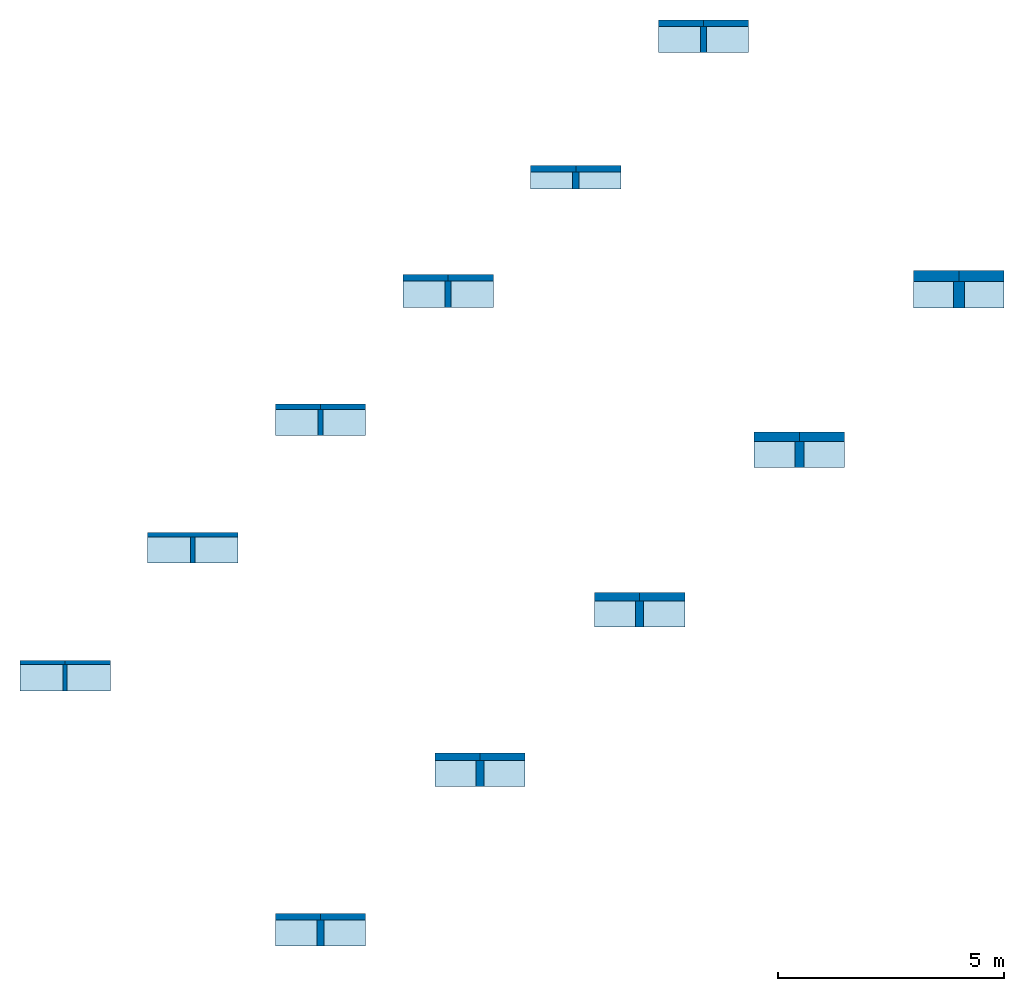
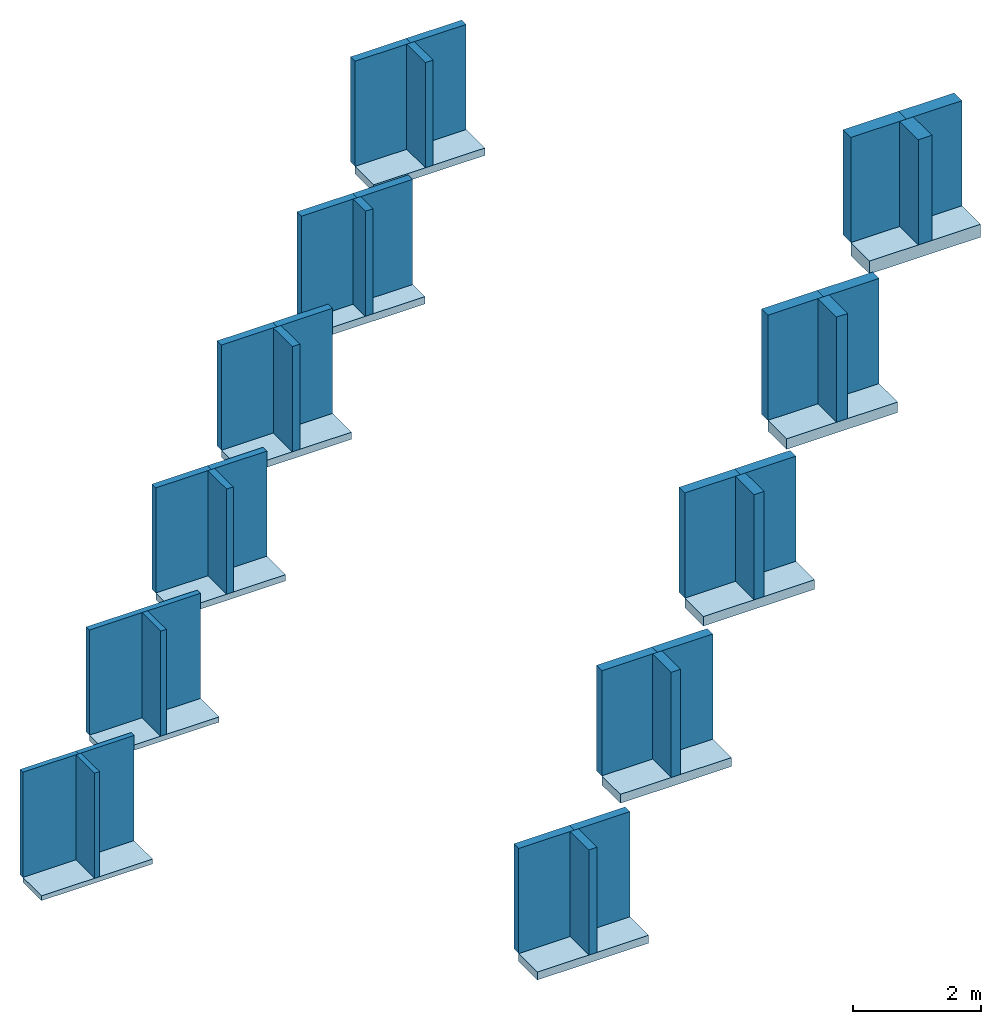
# One storey: 32 walls, 11 slabs.
"""IFC2X3 building model written with IfcOpenShell, lengths in millimetres."""

import ifcopenshell
import ifcopenshell.guid

model = None  # the IFC model being written
_history = None  # IfcOwnerHistory: only IFC2X3 demands one
_inside = {}  # id of a spatial element -> (the spatial element, [elements in it])
_under = {}  # id of a project, library or spatial element -> (it, [spatial elements below it])
_declared = {}  # id of a project -> (the project, [libraries it declares])
_typed = {}  # id of a type object -> (the type object, [elements of that type])
_made_of = {}  # id of a material, layer set ... -> (it, [elements and type objects made of it])


def new_model(schema):
    """Start an empty IFC model of exactly this schema.

    Asked for "IFC4X3", IfcOpenShell would pick the latest addendum, in which some entities
    have other attributes; the version numbers below select the first issue.
    IFC2X3 requires an IfcOwnerHistory on every rooted entity: one is made here for all.
    """
    global model, _history
    if schema == "IFC4X3":
        model = ifcopenshell.file(schema_version=(4, 3, 0, 0))
    else:
        model = ifcopenshell.file(schema=schema)
    _inside.clear()
    _under.clear()
    _declared.clear()
    _typed.clear()
    _made_of.clear()
    _history = None
    if model.schema == "IFC2X3":
        org = make("IfcOrganization", Name="unknown")
        user = make(
            "IfcPersonAndOrganization",
            ThePerson=make("IfcPerson", FamilyName="unknown"),
            TheOrganization=org,
        )
        app = make(
            "IfcApplication",
            ApplicationDeveloper=org,
            Version="unknown",
            ApplicationFullName="unknown",
            ApplicationIdentifier="unknown",
        )
        _history = make(
            "IfcOwnerHistory",
            OwningUser=user,
            OwningApplication=app,
            ChangeAction="ADDED",
            CreationDate=0,
        )
    return model


def make(cls, **values):
    """One entity of the class cls with the attributes given. An attribute that is None is left unset."""
    return model.create_entity(
        cls, **{name: value for name, value in values.items() if value is not None}
    )


def entity(cls, *values):
    """Any entity or typed value of the class cls, its attributes in the order of the schema. None: left unset."""
    e = model.create_entity(cls)
    for i, value in enumerate(values):
        if value is not None:
            e[i] = value
    return e


def rooted(cls, **values):
    """An entity with a GlobalId (a new one), such as an element, a storey or a relation."""
    return make(cls, GlobalId=ifcopenshell.guid.new(), OwnerHistory=_history, **values)


def si_unit(unit_type, name, prefix=None):
    """IfcSIUnit, for example si_unit("LENGTHUNIT", "METRE", prefix="MILLI")."""
    return make("IfcSIUnit", UnitType=unit_type, Prefix=prefix, Name=name)


def converted_unit(unit_type, name, factor, base, dimensions=None, offset=None):
    """IfcConversionBasedUnit, such as the inch: factor (a typed value) times the base unit."""
    return make(
        "IfcConversionBasedUnit"
        if offset is None
        else "IfcConversionBasedUnitWithOffset",
        ConversionOffset=offset,
        Dimensions=None
        if dimensions is None
        else entity("IfcDimensionalExponents", *dimensions),
        UnitType=unit_type,
        Name=name,
        ConversionFactor=make(
            "IfcMeasureWithUnit", ValueComponent=factor, UnitComponent=base
        ),
    )


def derived_unit(unit_type, elements):
    """IfcDerivedUnit: a product of units, each with its exponent."""
    return make(
        "IfcDerivedUnit",
        Elements=[
            make("IfcDerivedUnitElement", Unit=unit, Exponent=power)
            for unit, power in elements
        ],
        UnitType=unit_type,
    )


def assignment(units):
    """IfcUnitAssignment: the units of a project."""
    return None if units is None else make("IfcUnitAssignment", Units=units)


def point(xyz):
    """IfcCartesianPoint."""
    return None if xyz is None else make("IfcCartesianPoint", Coordinates=xyz)


def direction(xyz):
    """IfcDirection."""
    return None if xyz is None else make("IfcDirection", DirectionRatios=xyz)


def frame(location, z_axis=None, x_axis=None):
    """IfcAxis2Placement3D, a coordinate frame: its origin and axes. An axis left out is left unset."""
    return make(
        "IfcAxis2Placement3D",
        Location=point(location),
        Axis=direction(z_axis),
        RefDirection=direction(x_axis),
    )


def frame_2d(location, x_axis=None):
    """IfcAxis2Placement2D, a coordinate frame in the plane: its origin and x axis."""
    return make(
        "IfcAxis2Placement2D", Location=point(location), RefDirection=direction(x_axis)
    )


def origin():
    """The frame at (0, 0, 0) with its axes left unset."""
    return frame((0.0, 0.0, 0.0))


def origin_2d_with_axis():
    """The frame at (0, 0) in the plane with the x axis (1, 0) written out."""
    return frame_2d((0.0, 0.0), x_axis=(1.0, 0.0))


def place(relative_to, where):
    """IfcLocalPlacement: puts the frame where relative to a parent placement (None: the world)."""
    return make(
        "IfcLocalPlacement", PlacementRelTo=relative_to, RelativePlacement=where
    )


def context(
    kind, dimensions, precision=None, world=None, true_north=None, identifier=None
):
    """IfcGeometricRepresentationContext, for example the 3D "Model" context."""
    return make(
        "IfcGeometricRepresentationContext",
        ContextIdentifier=identifier,
        ContextType=kind,
        CoordinateSpaceDimension=dimensions,
        Precision=precision,
        WorldCoordinateSystem=world,
        TrueNorth=true_north,
    )


def subcontext(parent, identifier, kind, view, scale=None):
    """IfcGeometricRepresentationSubContext, for example "Body" below "Model"."""
    return make(
        "IfcGeometricRepresentationSubContext",
        ContextIdentifier=identifier,
        ContextType=kind,
        ParentContext=parent,
        TargetScale=scale,
        TargetView=view,
    )


def project(units=None, contexts=None):
    """IfcProject with its units and contexts."""
    return rooted(
        "IfcProject",
        Name="project",
        RepresentationContexts=contexts,
        UnitsInContext=assignment(units),
    )


def spatial(cls, under=None, at=None, **own):
    """A site, building, storey or space (cls), placed at a placement, below another one or the project."""
    s = rooted(cls, ObjectPlacement=at, **own)
    if under is not None:
        _under.setdefault(under.id(), (under, []))[1].append(s)
    return s


def profile(cls, at=None, kind="AREA", **sizes):
    """A parametric profile (cls). Its sizes go by their IFC names, for example OverallWidth=200.0."""
    return make(cls, ProfileType=kind, Position=at, **sizes)


def rectangle(**sizes):
    """IfcRectangleProfileDef."""
    return profile("IfcRectangleProfileDef", **sizes)


def extrude(swept, where, along, depth):
    """IfcExtrudedAreaSolid: the profile swept, set in the frame where, extruded along a direction by depth."""
    return make(
        "IfcExtrudedAreaSolid",
        SweptArea=swept,
        Position=where,
        ExtrudedDirection=direction(along),
        Depth=depth,
    )


def shape(context_of_items, identifier, shape_type, items):
    """IfcShapeRepresentation: the items that make up one representation, for example the "Body"."""
    return make(
        "IfcShapeRepresentation",
        ContextOfItems=context_of_items,
        RepresentationIdentifier=identifier,
        RepresentationType=shape_type,
        Items=items,
    )


def material(Name=None, Category=None):
    """IfcMaterial."""
    return make("IfcMaterial", Name=Name, Category=Category)


def layer(
    of_material, thickness, ventilated=None, Name=None, Category=None, Priority=None
):
    """IfcMaterialLayer: one layer of a wall or slab, of a material (None: an air gap)."""
    return make(
        "IfcMaterialLayer",
        Material=of_material,
        LayerThickness=thickness,
        IsVentilated=ventilated,
        Name=Name,
        Category=Category,
        Priority=Priority,
    )


def layer_set(layers, Name=None):
    """IfcMaterialLayerSet."""
    return make("IfcMaterialLayerSet", MaterialLayers=layers, LayerSetName=Name)


def layer_usage(for_layer_set, set_direction, sense, offset, extent=None):
    """IfcMaterialLayerSetUsage: how a layer set lies in its element."""
    return make(
        "IfcMaterialLayerSetUsage",
        ForLayerSet=for_layer_set,
        LayerSetDirection=set_direction,
        DirectionSense=sense,
        OffsetFromReferenceLine=offset,
        ReferenceExtent=extent,
    )


def made_of(thing, what):
    """Note that an element or type object is made of a material, layer set ...; save() writes the relation."""
    if what is not None:
        _made_of.setdefault(what.id(), (what, []))[1].append(thing)
    return thing


def type_object(cls, material=None, **own):
    """A type object (cls), such as IfcWallType, which elements share."""
    return made_of(rooted(cls, **own), material)


def element(
    cls,
    number,
    at=None,
    inside=None,
    cuts=None,
    type_object=None,
    material=None,
    context=None,
    identifier="Body",
    shape_type=None,
    held_by="IfcProductDefinitionShape",
    body=None,
    shapes=None,
    **own,
):
    """One element of the class cls, such as IfcWall. Its Tag is "e" and its number.

    at: its placement. inside: the storey or other place that contains it. cuts: it is an
    opening in that element (IfcRelVoidsElement). A single representation is given by context,
    identifier, shape_type and body (its items); several are given by shapes. held_by: the class
    of the entity that holds the representations. save() writes the other relations.
    """
    e = rooted(cls, Tag="e%d" % number, ObjectPlacement=at, **own)
    if body is not None:
        shapes = [shape(context, identifier, shape_type, body)]
    if shapes is not None:
        e.Representation = make(held_by, Representations=shapes)
    if inside is not None:
        _inside.setdefault(inside.id(), (inside, []))[1].append(e)
    if cuts is not None:
        rooted(
            "IfcRelVoidsElement", RelatingBuildingElement=cuts, RelatedOpeningElement=e
        )
    if type_object is not None:
        _typed.setdefault(type_object.id(), (type_object, []))[1].append(e)
    return made_of(e, material)


def aggregate(whole, parts):
    """IfcRelAggregates: a whole, such as a stair, and the parts it consists of."""
    return rooted("IfcRelAggregates", RelatingObject=whole, RelatedObjects=parts)


def save(model, path):
    """Write the relations noted so far, then the file.

    IfcRelAggregates (storeys below a building ...), IfcRelContainedInSpatialStructure (elements
    in a storey), IfcRelDefinesByType, IfcRelAssociatesMaterial and IfcRelDeclares: one each for
    every whole, place, type object, material and project.
    """
    for whole, parts in _under.values():
        aggregate(whole, parts)
    for where, things in _inside.values():
        rooted(
            "IfcRelContainedInSpatialStructure",
            RelatedElements=things,
            RelatingStructure=where,
        )
    for kind, things in _typed.values():
        rooted("IfcRelDefinesByType", RelatedObjects=things, RelatingType=kind)
    for what, things in _made_of.values():
        rooted("IfcRelAssociatesMaterial", RelatedObjects=things, RelatingMaterial=what)
    for by, libraries in _declared.values():
        rooted("IfcRelDeclares", RelatingContext=by, RelatedDefinitions=libraries)
    model.write(path)


model = new_model("IFC2X3")

# Units and contexts
model_context = context("Model", 3, precision=0.01, world=origin(), true_north=direction((6.12303176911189e-17, 1.0)))
context_of_model = context(None, 3, precision=0.01, world=origin(), true_north=direction((6.12303176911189e-17, 1.0)))
body_context = subcontext(model_context, "Body", "Model", "MODEL_VIEW")
ifc_project = project(units=[si_unit("LENGTHUNIT", "METRE", prefix="MILLI"), si_unit("AREAUNIT", "SQUARE_METRE"), si_unit("VOLUMEUNIT", "CUBIC_METRE"), converted_unit("PLANEANGLEUNIT", "DEGREE", entity("IfcRatioMeasure", 0.0174532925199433), si_unit("PLANEANGLEUNIT", "RADIAN"), dimensions=[0, 0, 0, 0, 0, 0, 0]), si_unit("MASSUNIT", "GRAM", prefix="KILO"), derived_unit("MASSDENSITYUNIT", [(si_unit("MASSUNIT", "GRAM", prefix="KILO"), 1), (si_unit("LENGTHUNIT", "METRE"), -3)]), si_unit("TIMEUNIT", "SECOND"), si_unit("FREQUENCYUNIT", "HERTZ"), si_unit("THERMODYNAMICTEMPERATUREUNIT", "DEGREE_CELSIUS"), derived_unit("THERMALTRANSMITTANCEUNIT", [(si_unit("MASSUNIT", "GRAM", prefix="KILO"), 1), (si_unit("THERMODYNAMICTEMPERATUREUNIT", "KELVIN"), -1), (si_unit("TIMEUNIT", "SECOND"), -3)]), derived_unit("VOLUMETRICFLOWRATEUNIT", [(si_unit("LENGTHUNIT", "METRE"), 3), (si_unit("TIMEUNIT", "SECOND"), -1)]), si_unit("ELECTRICCURRENTUNIT", "AMPERE"), si_unit("ELECTRICVOLTAGEUNIT", "VOLT"), si_unit("POWERUNIT", "WATT"), si_unit("FORCEUNIT", "NEWTON", prefix="KILO"), si_unit("ILLUMINANCEUNIT", "LUX"), si_unit("LUMINOUSFLUXUNIT", "LUMEN"), si_unit("LUMINOUSINTENSITYUNIT", "CANDELA"), derived_unit("USERDEFINED", [(si_unit("MASSUNIT", "GRAM", prefix="KILO"), -1), (si_unit("LENGTHUNIT", "METRE"), -2), (si_unit("TIMEUNIT", "SECOND"), 3), (si_unit("LUMINOUSFLUXUNIT", "LUMEN"), 1)]), derived_unit("LINEARVELOCITYUNIT", [(si_unit("LENGTHUNIT", "METRE"), 1), (si_unit("TIMEUNIT", "SECOND"), -1)]), si_unit("PRESSUREUNIT", "PASCAL"), derived_unit("USERDEFINED", [(si_unit("LENGTHUNIT", "METRE"), -2), (si_unit("MASSUNIT", "GRAM", prefix="KILO"), 1), (si_unit("TIMEUNIT", "SECOND"), -2)])], contexts=[model_context, context_of_model])

# Site, building, storey
site_placement = place(None, origin())
site = spatial("IfcSite", under=ifc_project, at=site_placement, Name="Default", CompositionType="ELEMENT")
building_placement = place(site_placement, origin())
building = spatial("IfcBuilding", under=site, at=building_placement, CompositionType="ELEMENT")
storey_placement = place(building_placement, origin())
storey = spatial("IfcBuildingStorey", under=building, at=storey_placement, Name="Begane grond", CompositionType="ELEMENT", Elevation=0.0)

# Slabs
ifc_material = material(Name="Knauf Insulation_Ecose® glaswol_naturoll 032")
ifc_layer_1 = layer(ifc_material, 90.0)
ifc_layer_set_1 = layer_set([ifc_layer_1], Name="Floor:NLRS_23_FL_Naturoll 032_90x580x3500mm")
ifc_layer_usage_1 = layer_usage(ifc_layer_set_1, "AXIS3", "POSITIVE", 0.0)
slab_type_1 = type_object("IfcSlabType", Name="Floor:NLRS_23_FL_Naturoll 032_90x580x3500mm", PredefinedType="FLOOR", material=ifc_layer_set_1)
slab_1_placement = place(storey_placement, origin())
element("IfcSlab", 1, at=slab_1_placement, inside=storey, type_object=slab_type_1, material=ifc_layer_usage_1, Name="Floor:NLRS_23_FL_Naturoll 032_90x580x3500mm", ObjectType="Floor:NLRS_23_FL_Naturoll 032_90x580x3500mm", PredefinedType="FLOOR", context=body_context, shape_type="SweptSolid", body=[
    extrude(rectangle(XDim=580.0, YDim=2000.0, at=origin_2d_with_axis()), frame((-2086.12151122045, -4834.3198354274, 0.0), z_axis=(0.0, 0.0, -1.0), x_axis=(0.0, 1.0, 0.0)), (0.0, 0.0, 1.0), 90.0),
])
ifc_layer_2 = layer(ifc_material, 100.0)
ifc_layer_set_2 = layer_set([ifc_layer_2], Name="Floor:NLRS_23_FL_Naturoll 032_100x580x2700mm")
ifc_layer_usage_2 = layer_usage(ifc_layer_set_2, "AXIS3", "POSITIVE", 0.0)
slab_type_2 = type_object("IfcSlabType", Name="Floor:NLRS_23_FL_Naturoll 032_100x580x2700mm", PredefinedType="FLOOR", material=ifc_layer_set_2)
slab_2_placement = place(storey_placement, origin())
element("IfcSlab", 2, at=slab_2_placement, inside=storey, type_object=slab_type_2, material=ifc_layer_usage_2, Name="Floor:NLRS_23_FL_Naturoll 032_100x580x2700mm", ObjectType="Floor:NLRS_23_FL_Naturoll 032_100x580x2700mm", PredefinedType="FLOOR", context=body_context, shape_type="SweptSolid", body=[
    extrude(rectangle(XDim=580.0, YDim=2000.0, at=frame_2d((0.0, -1.13686837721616e-13), x_axis=(1.0, 0.0))), frame((742.305613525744, -2005.89271068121, 0.0), z_axis=(0.0, 0.0, -1.0), x_axis=(0.0, 1.0, 0.0)), (0.0, 0.0, 1.0), 100.0),
])
ifc_layer_3 = layer(ifc_material, 120.0)
ifc_layer_set_3 = layer_set([ifc_layer_3], Name="Floor:NLRS_23_FL_Naturoll 032_120x580x2700mm")
ifc_layer_usage_3 = layer_usage(ifc_layer_set_3, "AXIS3", "POSITIVE", 0.0)
slab_type_3 = type_object("IfcSlabType", Name="Floor:NLRS_23_FL_Naturoll 032_120x580x2700mm", PredefinedType="FLOOR", material=ifc_layer_set_3)
slab_3_placement = place(storey_placement, origin())
element("IfcSlab", 3, at=slab_3_placement, inside=storey, type_object=slab_type_3, material=ifc_layer_usage_3, Name="Floor:NLRS_23_FL_Naturoll 032_120x580x2700mm", ObjectType="Floor:NLRS_23_FL_Naturoll 032_120x580x2700mm", PredefinedType="FLOOR", context=body_context, shape_type="SweptSolid", body=[
    extrude(rectangle(XDim=580.0, YDim=2000.0, at=origin_2d_with_axis()), frame((3570.73273827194, 822.534414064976, 0.0), z_axis=(0.0, 0.0, -1.0), x_axis=(0.0, 1.0, 0.0)), (0.0, 0.0, 1.0), 120.0),
])
ifc_layer_4 = layer(ifc_material, 135.0)
ifc_layer_set_4 = layer_set([ifc_layer_4], Name="Floor:NLRS_23_FL_Naturoll 032_135x590x2700mm")
ifc_layer_usage_4 = layer_usage(ifc_layer_set_4, "AXIS3", "POSITIVE", 0.0)
slab_type_4 = type_object("IfcSlabType", Name="Floor:NLRS_23_FL_Naturoll 032_135x590x2700mm", PredefinedType="FLOOR", material=ifc_layer_set_4)
slab_4_placement = place(storey_placement, origin())
element("IfcSlab", 4, at=slab_4_placement, inside=storey, type_object=slab_type_4, material=ifc_layer_usage_4, Name="Floor:NLRS_23_FL_Naturoll 032_135x590x2700mm", ObjectType="Floor:NLRS_23_FL_Naturoll 032_135x590x2700mm", PredefinedType="FLOOR", context=body_context, shape_type="SweptSolid", body=[
    extrude(rectangle(XDim=590.0, YDim=2000.0, at=origin_2d_with_axis()), frame((6399.15986301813, 3665.96153881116, 0.0), z_axis=(0.0, 0.0, -1.0), x_axis=(0.0, 1.0, 0.0)), (0.0, 0.0, 1.0), 135.0),
])
ifc_layer_5 = layer(ifc_material, 140.0)
ifc_layer_set_5 = layer_set([ifc_layer_5], Name="Floor:NLRS_23_FL_Naturoll 032_140x380x2700mm")
ifc_layer_usage_5 = layer_usage(ifc_layer_set_5, "AXIS3", "POSITIVE", 0.0)
slab_type_5 = type_object("IfcSlabType", Name="Floor:NLRS_23_FL_Naturoll 032_140x380x2700mm", PredefinedType="FLOOR", material=ifc_layer_set_5)
slab_5_placement = place(storey_placement, origin())
element("IfcSlab", 5, at=slab_5_placement, inside=storey, type_object=slab_type_5, material=ifc_layer_usage_5, Name="Floor:NLRS_23_FL_Naturoll 032_140x380x2700mm", ObjectType="Floor:NLRS_23_FL_Naturoll 032_140x380x2700mm", PredefinedType="FLOOR", context=body_context, shape_type="SweptSolid", body=[
    extrude(rectangle(XDim=380.0, YDim=2000.0, at=origin_2d_with_axis()), frame((9227.58698776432, 6179.38866355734, 0.0), z_axis=(0.0, 0.0, -1.0), x_axis=(0.0, 1.0, 0.0)), (0.0, 0.0, 1.0), 140.0),
])
ifc_layer_6 = layer(ifc_material, 140.0)
ifc_layer_set_6 = layer_set([ifc_layer_6], Name="Floor:NLRS_23_FL_Naturoll 032_140x580x2700mm")
ifc_layer_usage_6 = layer_usage(ifc_layer_set_6, "AXIS3", "POSITIVE", 0.0)
slab_type_6 = type_object("IfcSlabType", Name="Floor:NLRS_23_FL_Naturoll 032_140x580x2700mm", PredefinedType="FLOOR", material=ifc_layer_set_6)
slab_6_placement = place(storey_placement, origin())
element("IfcSlab", 6, at=slab_6_placement, inside=storey, type_object=slab_type_6, material=ifc_layer_usage_6, Name="Floor:NLRS_23_FL_Naturoll 032_140x580x2700mm", ObjectType="Floor:NLRS_23_FL_Naturoll 032_140x580x2700mm", PredefinedType="FLOOR", context=body_context, shape_type="SweptSolid", body=[
    extrude(rectangle(XDim=580.0, YDim=2000.0, at=frame_2d((0.0, -2.1600499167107e-12), x_axis=(1.0, 0.0))), frame((12056.0141125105, 9307.81578830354, 0.0), z_axis=(0.0, 0.0, -1.0), x_axis=(0.0, 1.0, 0.0)), (0.0, 0.0, 1.0), 140.0),
])
ifc_layer_7 = layer(ifc_material, 150.0)
ifc_layer_set_7 = layer_set([ifc_layer_7], Name="Floor:NLRS_23_FL_Naturoll 032_150x580x2700mm")
ifc_layer_usage_7 = layer_usage(ifc_layer_set_7, "AXIS3", "POSITIVE", 0.0)
slab_type_7 = type_object("IfcSlabType", Name="Floor:NLRS_23_FL_Naturoll 032_150x580x2700mm", PredefinedType="FLOOR", material=ifc_layer_set_7)
slab_7_placement = place(storey_placement, origin())
element("IfcSlab", 7, at=slab_7_placement, inside=storey, type_object=slab_type_7, material=ifc_layer_usage_7, Name="Floor:NLRS_23_FL_Naturoll 032_150x580x2700mm", ObjectType="Floor:NLRS_23_FL_Naturoll 032_150x580x2700mm", PredefinedType="FLOOR", context=body_context, shape_type="SweptSolid", body=[
    extrude(rectangle(XDim=580.0, YDim=2000.0, at=frame_2d((1.08002495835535e-12, 0.0), x_axis=(1.0, 0.0))), frame((3570.73273827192, -10491.1740849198, 0.0), z_axis=(0.0, 0.0, -1.0), x_axis=(0.0, 1.0, 0.0)), (0.0, 0.0, 1.0), 150.0),
])
ifc_layer_8 = layer(ifc_material, 170.0)
ifc_layer_set_8 = layer_set([ifc_layer_8], Name="Floor:NLRS_23_FL_Naturoll 032_170x580x2350mm")
ifc_layer_usage_8 = layer_usage(ifc_layer_set_8, "AXIS3", "POSITIVE", 0.0)
slab_type_8 = type_object("IfcSlabType", Name="Floor:NLRS_23_FL_Naturoll 032_170x580x2350mm", PredefinedType="FLOOR", material=ifc_layer_set_8)
slab_8_placement = place(storey_placement, origin())
element("IfcSlab", 8, at=slab_8_placement, inside=storey, type_object=slab_type_8, material=ifc_layer_usage_8, Name="Floor:NLRS_23_FL_Naturoll 032_170x580x2350mm", ObjectType="Floor:NLRS_23_FL_Naturoll 032_170x580x2350mm", PredefinedType="FLOOR", context=body_context, shape_type="SweptSolid", body=[
    extrude(rectangle(XDim=580.0, YDim=2000.0, at=origin_2d_with_axis()), frame((7106.26664420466, -6955.64017898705, 0.0), z_axis=(0.0, 0.0, -1.0), x_axis=(0.0, 1.0, 0.0)), (0.0, 0.0, 1.0), 170.0),
])
ifc_layer_9 = layer(ifc_material, 180.0)
ifc_layer_set_9 = layer_set([ifc_layer_9], Name="Floor:NLRS_23_FL_Naturoll 032_180x580x2200mm")
ifc_layer_usage_9 = layer_usage(ifc_layer_set_9, "AXIS3", "POSITIVE", 0.0)
slab_type_9 = type_object("IfcSlabType", Name="Floor:NLRS_23_FL_Naturoll 032_180x580x2200mm", PredefinedType="FLOOR", material=ifc_layer_set_9)
slab_9_placement = place(storey_placement, origin())
element("IfcSlab", 9, at=slab_9_placement, inside=storey, type_object=slab_type_9, material=ifc_layer_usage_9, Name="Floor:NLRS_23_FL_Naturoll 032_180x580x2200mm", ObjectType="Floor:NLRS_23_FL_Naturoll 032_180x580x2200mm", PredefinedType="FLOOR", context=body_context, shape_type="SweptSolid", body=[
    extrude(rectangle(XDim=580.0, YDim=2000.0, at=frame_2d((0.0, 1.64845914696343e-12), x_axis=(1.0, 0.0))), frame((10641.8005501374, -3420.10627305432, 0.0), z_axis=(0.0, 0.0, -1.0), x_axis=(0.0, 1.0, 0.0)), (0.0, 0.0, 1.0), 180.0),
])
ifc_layer_10 = layer(ifc_material, 200.0)
ifc_layer_set_10 = layer_set([ifc_layer_10], Name="Floor:NLRS_23_FL_Naturoll 032_200x580x2000mm")
ifc_layer_usage_10 = layer_usage(ifc_layer_set_10, "AXIS3", "POSITIVE", 0.0)
slab_type_10 = type_object("IfcSlabType", Name="Floor:NLRS_23_FL_Naturoll 032_200x580x2000mm", PredefinedType="FLOOR", material=ifc_layer_set_10)
slab_10_placement = place(storey_placement, origin())
element("IfcSlab", 10, at=slab_10_placement, inside=storey, type_object=slab_type_10, material=ifc_layer_usage_10, Name="Floor:NLRS_23_FL_Naturoll 032_200x580x2000mm", ObjectType="Floor:NLRS_23_FL_Naturoll 032_200x580x2000mm", PredefinedType="FLOOR", context=body_context, shape_type="SweptSolid", body=[
    extrude(rectangle(XDim=580.0, YDim=2000.0, at=origin_2d_with_axis()), frame((14177.3344560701, 115.427632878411, 0.0), z_axis=(0.0, 0.0, -1.0), x_axis=(0.0, 1.0, 0.0)), (0.0, 0.0, 1.0), 200.0),
])
ifc_layer_11 = layer(ifc_material, 245.0)
ifc_layer_set_11 = layer_set([ifc_layer_11], Name="Floor:NLRS_23_FL_Naturoll 032_245x580x2000mm")
ifc_layer_usage_11 = layer_usage(ifc_layer_set_11, "AXIS3", "POSITIVE", 0.0)
slab_type_11 = type_object("IfcSlabType", Name="Floor:NLRS_23_FL_Naturoll 032_245x580x2000mm", PredefinedType="FLOOR", material=ifc_layer_set_11)
slab_11_placement = place(storey_placement, origin())
element("IfcSlab", 11, at=slab_11_placement, inside=storey, type_object=slab_type_11, material=ifc_layer_usage_11, Name="Floor:NLRS_23_FL_Naturoll 032_245x580x2000mm", ObjectType="Floor:NLRS_23_FL_Naturoll 032_245x580x2000mm", PredefinedType="FLOOR", context=body_context, shape_type="SweptSolid", body=[
    extrude(rectangle(XDim=580.0, YDim=2000.0, at=frame_2d((0.0, -2.1600499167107e-12), x_axis=(1.0, 0.0))), frame((17712.8683620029, 3650.96153881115, 0.0), z_axis=(0.0, 0.0, -1.0), x_axis=(0.0, 1.0, 0.0)), (0.0, 0.0, 1.0), 245.0),
])

# Walls
ifc_layer_12 = layer(ifc_material, 90.0)
ifc_layer_set_12 = layer_set([ifc_layer_12], Name="Basic Wall:NLRS_21_WA_Naturoll 032_90x580x3500mm")
ifc_layer_usage_12 = layer_usage(ifc_layer_set_12, "AXIS2", "NEGATIVE", 45.0)
wall_type_1 = type_object("IfcWallType", Name="Basic Wall:NLRS_21_WA_Naturoll 032_90x580x3500mm", PredefinedType="STANDARD", material=ifc_layer_set_12)
wall_1_placement = place(storey_placement, frame((-3086.12151122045, -4499.3198354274, 0.0)))
element("IfcWallStandardCase", 12, at=wall_1_placement, inside=storey, type_object=wall_type_1, material=ifc_layer_usage_12, Name="Basic Wall:NLRS_21_WA_Naturoll 032_90x580x3500mm", ObjectType="Basic Wall:NLRS_21_WA_Naturoll 032_90x580x3500mm", context=body_context, shape_type="SweptSolid", body=[
    extrude(rectangle(XDim=1000.0, YDim=90.0000000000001, at=frame_2d((500.0, 0.0), x_axis=(-1.0, 0.0))), origin(), (0.0, 0.0, 1.0), 2000.0),
])
ifc_layer_usage_13 = layer_usage(ifc_layer_set_12, "AXIS2", "NEGATIVE", 45.0)
wall_2_placement = place(storey_placement, frame((-2086.12151122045, -4499.3198354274, 0.0)))
element("IfcWallStandardCase", 13, at=wall_2_placement, inside=storey, type_object=wall_type_1, material=ifc_layer_usage_13, Name="Basic Wall:NLRS_21_WA_Naturoll 032_90x580x3500mm", ObjectType="Basic Wall:NLRS_21_WA_Naturoll 032_90x580x3500mm", context=body_context, shape_type="SweptSolid", body=[
    extrude(rectangle(XDim=1000.0, YDim=90.0000000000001, at=frame_2d((500.0, 0.0), x_axis=(-1.0, 0.0))), origin(), (0.0, 0.0, 1.0), 2000.0),
])
ifc_layer_usage_14 = layer_usage(ifc_layer_set_12, "AXIS2", "NEGATIVE", 45.0)
wall_3_placement = place(storey_placement, frame((-2086.12151122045, -4544.3198354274, 0.0), z_axis=(0.0, 0.0, 1.0), x_axis=(0.0, -1.0, 0.0)))
element("IfcWallStandardCase", 14, at=wall_3_placement, inside=storey, type_object=wall_type_1, material=ifc_layer_usage_14, Name="Basic Wall:NLRS_21_WA_Naturoll 032_90x580x3500mm", ObjectType="Basic Wall:NLRS_21_WA_Naturoll 032_90x580x3500mm", context=body_context, shape_type="SweptSolid", body=[
    extrude(rectangle(XDim=580.0, YDim=90.0000000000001, at=frame_2d((290.0, 0.0), x_axis=(-1.0, 0.0))), origin(), (0.0, 0.0, 1.0), 2000.0),
])
ifc_layer_13 = layer(ifc_material, 100.0)
ifc_layer_set_13 = layer_set([ifc_layer_13], Name="Basic Wall:NLRS_21_WA_Naturoll 032_100x580x2700mm")
ifc_layer_usage_15 = layer_usage(ifc_layer_set_13, "AXIS2", "NEGATIVE", 50.0)
wall_type_2 = type_object("IfcWallType", Name="Basic Wall:NLRS_21_WA_Naturoll 032_100x580x2700mm", PredefinedType="STANDARD", material=ifc_layer_set_13)
wall_4_placement = place(storey_placement, frame((-257.694386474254, -1665.89271068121, 0.0)))
element("IfcWallStandardCase", 15, at=wall_4_placement, inside=storey, type_object=wall_type_2, material=ifc_layer_usage_15, Name="Basic Wall:NLRS_21_WA_Naturoll 032_100x580x2700mm", ObjectType="Basic Wall:NLRS_21_WA_Naturoll 032_100x580x2700mm", context=body_context, shape_type="SweptSolid", body=[
    extrude(rectangle(XDim=2000.0, YDim=100.0, at=frame_2d((1000.0, 0.0), x_axis=(-1.0, 0.0))), origin(), (0.0, 0.0, 1.0), 2000.0),
])
ifc_layer_usage_16 = layer_usage(ifc_layer_set_13, "AXIS2", "NEGATIVE", 50.0)
wall_5_placement = place(storey_placement, frame((742.305613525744, -1715.89271068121, 0.0), z_axis=(0.0, 0.0, 1.0), x_axis=(0.0, -1.0, 0.0)))
element("IfcWallStandardCase", 16, at=wall_5_placement, inside=storey, type_object=wall_type_2, material=ifc_layer_usage_16, Name="Basic Wall:NLRS_21_WA_Naturoll 032_100x580x2700mm", ObjectType="Basic Wall:NLRS_21_WA_Naturoll 032_100x580x2700mm", context=body_context, shape_type="SweptSolid", body=[
    extrude(rectangle(XDim=580.000000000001, YDim=100.0, at=frame_2d((290.0, 0.0), x_axis=(-1.0, 0.0))), origin(), (0.0, 0.0, 1.0), 2000.0),
])
ifc_layer_14 = layer(ifc_material, 120.0)
ifc_layer_set_14 = layer_set([ifc_layer_14], Name="Basic Wall:NLRS_21_WA_Naturoll 032_120x580x2700mm")
ifc_layer_usage_17 = layer_usage(ifc_layer_set_14, "AXIS2", "NEGATIVE", 60.0)
wall_type_3 = type_object("IfcWallType", Name="Basic Wall:NLRS_21_WA_Naturoll 032_120x580x2700mm", PredefinedType="STANDARD", material=ifc_layer_set_14)
wall_6_placement = place(storey_placement, frame((2570.73273827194, 1172.53441406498, 0.0)))
element("IfcWallStandardCase", 17, at=wall_6_placement, inside=storey, type_object=wall_type_3, material=ifc_layer_usage_17, Name="Basic Wall:NLRS_21_WA_Naturoll 032_120x580x2700mm", ObjectType="Basic Wall:NLRS_21_WA_Naturoll 032_120x580x2700mm", context=body_context, shape_type="SweptSolid", body=[
    extrude(rectangle(XDim=1000.0, YDim=120.0, at=frame_2d((500.0, 0.0), x_axis=(-1.0, 0.0))), origin(), (0.0, 0.0, 1.0), 2000.0),
])
ifc_layer_usage_18 = layer_usage(ifc_layer_set_14, "AXIS2", "NEGATIVE", 60.0)
wall_7_placement = place(storey_placement, frame((3570.73273827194, 1172.53441406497, 0.0)))
element("IfcWallStandardCase", 18, at=wall_7_placement, inside=storey, type_object=wall_type_3, material=ifc_layer_usage_18, Name="Basic Wall:NLRS_21_WA_Naturoll 032_120x580x2700mm", ObjectType="Basic Wall:NLRS_21_WA_Naturoll 032_120x580x2700mm", context=body_context, shape_type="SweptSolid", body=[
    extrude(rectangle(XDim=1000.0, YDim=120.0, at=frame_2d((500.0, 0.0), x_axis=(-1.0, 0.0))), origin(), (0.0, 0.0, 1.0), 2000.0),
])
ifc_layer_usage_19 = layer_usage(ifc_layer_set_14, "AXIS2", "NEGATIVE", 60.0)
wall_8_placement = place(storey_placement, frame((3570.73273827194, 1112.53441406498, 0.0), z_axis=(0.0, 0.0, 1.0), x_axis=(0.0, -1.0, 0.0)))
element("IfcWallStandardCase", 19, at=wall_8_placement, inside=storey, type_object=wall_type_3, material=ifc_layer_usage_19, Name="Basic Wall:NLRS_21_WA_Naturoll 032_120x580x2700mm", ObjectType="Basic Wall:NLRS_21_WA_Naturoll 032_120x580x2700mm", context=body_context, shape_type="SweptSolid", body=[
    extrude(rectangle(XDim=580.0, YDim=120.0, at=frame_2d((290.0, 1.35003119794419e-13), x_axis=(-1.0, 0.0))), origin(), (0.0, 0.0, 1.0), 2000.0),
])
ifc_layer_15 = layer(ifc_material, 135.0)
ifc_layer_set_15 = layer_set([ifc_layer_15], Name="Basic Wall:NLRS_21_WA_Naturoll 032_135x590x2700mm")
ifc_layer_usage_20 = layer_usage(ifc_layer_set_15, "AXIS2", "NEGATIVE", 67.5)
wall_type_4 = type_object("IfcWallType", Name="Basic Wall:NLRS_21_WA_Naturoll 032_135x590x2700mm", PredefinedType="STANDARD", material=ifc_layer_set_15)
wall_9_placement = place(storey_placement, frame((5399.15986301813, 4028.46153881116, 0.0)))
element("IfcWallStandardCase", 20, at=wall_9_placement, inside=storey, type_object=wall_type_4, material=ifc_layer_usage_20, Name="Basic Wall:NLRS_21_WA_Naturoll 032_135x590x2700mm", ObjectType="Basic Wall:NLRS_21_WA_Naturoll 032_135x590x2700mm", context=body_context, shape_type="SweptSolid", body=[
    extrude(rectangle(XDim=1000.0, YDim=135.0, at=frame_2d((500.0, 0.0), x_axis=(-1.0, 0.0))), origin(), (0.0, 0.0, 1.0), 2000.0),
])
ifc_layer_usage_21 = layer_usage(ifc_layer_set_15, "AXIS2", "NEGATIVE", 67.5)
wall_10_placement = place(storey_placement, frame((6399.15986301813, 4028.46153881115, 0.0)))
element("IfcWallStandardCase", 21, at=wall_10_placement, inside=storey, type_object=wall_type_4, material=ifc_layer_usage_21, Name="Basic Wall:NLRS_21_WA_Naturoll 032_135x590x2700mm", ObjectType="Basic Wall:NLRS_21_WA_Naturoll 032_135x590x2700mm", context=body_context, shape_type="SweptSolid", body=[
    extrude(rectangle(XDim=1000.0, YDim=135.0, at=frame_2d((500.0, 0.0), x_axis=(-1.0, 0.0))), origin(), (0.0, 0.0, 1.0), 2000.0),
])
ifc_layer_usage_22 = layer_usage(ifc_layer_set_15, "AXIS2", "NEGATIVE", 67.5)
wall_11_placement = place(storey_placement, frame((6399.15986301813, 3960.96153881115, 0.0), z_axis=(0.0, 0.0, 1.0), x_axis=(0.0, -1.0, 0.0)))
element("IfcWallStandardCase", 22, at=wall_11_placement, inside=storey, type_object=wall_type_4, material=ifc_layer_usage_22, Name="Basic Wall:NLRS_21_WA_Naturoll 032_135x590x2700mm", ObjectType="Basic Wall:NLRS_21_WA_Naturoll 032_135x590x2700mm", context=body_context, shape_type="SweptSolid", body=[
    extrude(rectangle(XDim=590.0, YDim=135.0, at=frame_2d((295.0, -1.27897692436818e-13), x_axis=(-1.0, 0.0))), origin(), (0.0, 0.0, 1.0), 2000.0),
])
ifc_layer_16 = layer(ifc_material, 140.0)
ifc_layer_set_16 = layer_set([ifc_layer_16], Name="Basic Wall:NLRS_21_WA_Naturoll 032_140x380x2700mm")
ifc_layer_usage_23 = layer_usage(ifc_layer_set_16, "AXIS2", "NEGATIVE", 70.0)
wall_type_5 = type_object("IfcWallType", Name="Basic Wall:NLRS_21_WA_Naturoll 032_140x380x2700mm", PredefinedType="STANDARD", material=ifc_layer_set_16)
wall_12_placement = place(storey_placement, frame((8227.58698776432, 6439.38866355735, 0.0)))
element("IfcWallStandardCase", 23, at=wall_12_placement, inside=storey, type_object=wall_type_5, material=ifc_layer_usage_23, Name="Basic Wall:NLRS_21_WA_Naturoll 032_140x380x2700mm", ObjectType="Basic Wall:NLRS_21_WA_Naturoll 032_140x380x2700mm", context=body_context, shape_type="SweptSolid", body=[
    extrude(rectangle(XDim=1000.0, YDim=140.000000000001, at=frame_2d((500.0, 0.0), x_axis=(-1.0, 0.0))), origin(), (0.0, 0.0, 1.0), 2000.0),
])
ifc_layer_usage_24 = layer_usage(ifc_layer_set_16, "AXIS2", "NEGATIVE", 70.0)
wall_13_placement = place(storey_placement, frame((9227.58698776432, 6439.38866355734, 0.0)))
element("IfcWallStandardCase", 24, at=wall_13_placement, inside=storey, type_object=wall_type_5, material=ifc_layer_usage_24, Name="Basic Wall:NLRS_21_WA_Naturoll 032_140x380x2700mm", ObjectType="Basic Wall:NLRS_21_WA_Naturoll 032_140x380x2700mm", context=body_context, shape_type="SweptSolid", body=[
    extrude(rectangle(XDim=1000.0, YDim=140.000000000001, at=frame_2d((500.0, 0.0), x_axis=(-1.0, 0.0))), origin(), (0.0, 0.0, 1.0), 2000.0),
])
ifc_layer_usage_25 = layer_usage(ifc_layer_set_16, "AXIS2", "NEGATIVE", 70.0)
wall_14_placement = place(storey_placement, frame((9227.58698776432, 6369.38866355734, 0.0), z_axis=(0.0, 0.0, 1.0), x_axis=(0.0, -1.0, 0.0)))
element("IfcWallStandardCase", 25, at=wall_14_placement, inside=storey, type_object=wall_type_5, material=ifc_layer_usage_25, Name="Basic Wall:NLRS_21_WA_Naturoll 032_140x380x2700mm", ObjectType="Basic Wall:NLRS_21_WA_Naturoll 032_140x380x2700mm", context=body_context, shape_type="SweptSolid", body=[
    extrude(rectangle(XDim=380.0, YDim=140.000000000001, at=frame_2d((190.0, -2.77111666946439e-13), x_axis=(-1.0, 0.0))), origin(), (0.0, 0.0, 1.0), 2000.0),
])
ifc_layer_17 = layer(ifc_material, 140.0)
ifc_layer_set_17 = layer_set([ifc_layer_17], Name="Basic Wall:NLRS_21_WA_Naturoll 032_140x580x2700mm")
ifc_layer_usage_26 = layer_usage(ifc_layer_set_17, "AXIS2", "NEGATIVE", 70.0)
wall_type_6 = type_object("IfcWallType", Name="Basic Wall:NLRS_21_WA_Naturoll 032_140x580x2700mm", PredefinedType="STANDARD", material=ifc_layer_set_17)
wall_15_placement = place(storey_placement, frame((11056.0141125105, 9667.81578830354, 0.0)))
element("IfcWallStandardCase", 26, at=wall_15_placement, inside=storey, type_object=wall_type_6, material=ifc_layer_usage_26, Name="Basic Wall:NLRS_21_WA_Naturoll 032_140x580x2700mm", ObjectType="Basic Wall:NLRS_21_WA_Naturoll 032_140x580x2700mm", context=body_context, shape_type="SweptSolid", body=[
    extrude(rectangle(XDim=1000.0, YDim=140.000000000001, at=frame_2d((500.0, 0.0), x_axis=(-1.0, 0.0))), origin(), (0.0, 0.0, 1.0), 2000.0),
])
ifc_layer_usage_27 = layer_usage(ifc_layer_set_17, "AXIS2", "NEGATIVE", 70.0)
wall_16_placement = place(storey_placement, frame((12056.0141125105, 9667.81578830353, 0.0)))
element("IfcWallStandardCase", 27, at=wall_16_placement, inside=storey, type_object=wall_type_6, material=ifc_layer_usage_27, Name="Basic Wall:NLRS_21_WA_Naturoll 032_140x580x2700mm", ObjectType="Basic Wall:NLRS_21_WA_Naturoll 032_140x580x2700mm", context=body_context, shape_type="SweptSolid", body=[
    extrude(rectangle(XDim=1000.0, YDim=140.000000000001, at=frame_2d((500.0, 0.0), x_axis=(-1.0, 0.0))), origin(), (0.0, 0.0, 1.0), 2000.0),
])
ifc_layer_usage_28 = layer_usage(ifc_layer_set_17, "AXIS2", "NEGATIVE", 70.0)
wall_17_placement = place(storey_placement, frame((12056.0141125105, 9597.81578830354, 0.0), z_axis=(0.0, 0.0, 1.0), x_axis=(0.0, -1.0, 0.0)))
element("IfcWallStandardCase", 28, at=wall_17_placement, inside=storey, type_object=wall_type_6, material=ifc_layer_usage_28, Name="Basic Wall:NLRS_21_WA_Naturoll 032_140x580x2700mm", ObjectType="Basic Wall:NLRS_21_WA_Naturoll 032_140x580x2700mm", context=body_context, shape_type="SweptSolid", body=[
    extrude(rectangle(XDim=580.0, YDim=139.999999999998, at=frame_2d((290.0, 4.05009359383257e-13), x_axis=(-1.0, 0.0))), origin(), (0.0, 0.0, 1.0), 2000.0),
])
ifc_layer_18 = layer(ifc_material, 150.0)
ifc_layer_set_18 = layer_set([ifc_layer_18], Name="Basic Wall:NLRS_21_WA_Naturoll 032_150x580x2700mm")
ifc_layer_usage_29 = layer_usage(ifc_layer_set_18, "AXIS2", "NEGATIVE", 75.0)
wall_type_7 = type_object("IfcWallType", Name="Basic Wall:NLRS_21_WA_Naturoll 032_150x580x2700mm", PredefinedType="STANDARD", material=ifc_layer_set_18)
wall_18_placement = place(storey_placement, frame((2570.73273827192, -10126.1740849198, 0.0)))
element("IfcWallStandardCase", 29, at=wall_18_placement, inside=storey, type_object=wall_type_7, material=ifc_layer_usage_29, Name="Basic Wall:NLRS_21_WA_Naturoll 032_150x580x2700mm", ObjectType="Basic Wall:NLRS_21_WA_Naturoll 032_150x580x2700mm", context=body_context, shape_type="SweptSolid", body=[
    extrude(rectangle(XDim=1000.0, YDim=150.000000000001, at=frame_2d((500.0, 5.47117906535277e-13), x_axis=(-1.0, 0.0))), origin(), (0.0, 0.0, 1.0), 2000.0),
])
ifc_layer_usage_30 = layer_usage(ifc_layer_set_18, "AXIS2", "NEGATIVE", 75.0)
wall_19_placement = place(storey_placement, frame((3570.73273827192, -10126.1740849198, 0.0)))
element("IfcWallStandardCase", 30, at=wall_19_placement, inside=storey, type_object=wall_type_7, material=ifc_layer_usage_30, Name="Basic Wall:NLRS_21_WA_Naturoll 032_150x580x2700mm", ObjectType="Basic Wall:NLRS_21_WA_Naturoll 032_150x580x2700mm", context=body_context, shape_type="SweptSolid", body=[
    extrude(rectangle(XDim=1000.0, YDim=150.000000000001, at=frame_2d((500.0, -5.40012479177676e-13), x_axis=(-1.0, 0.0))), origin(), (0.0, 0.0, 1.0), 2000.0),
])
ifc_layer_usage_31 = layer_usage(ifc_layer_set_18, "AXIS2", "NEGATIVE", 75.0)
wall_20_placement = place(storey_placement, frame((3570.73273827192, -10201.1740849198, 0.0), z_axis=(0.0, 0.0, 1.0), x_axis=(0.0, -1.0, 0.0)))
element("IfcWallStandardCase", 31, at=wall_20_placement, inside=storey, type_object=wall_type_7, material=ifc_layer_usage_31, Name="Basic Wall:NLRS_21_WA_Naturoll 032_150x580x2700mm", ObjectType="Basic Wall:NLRS_21_WA_Naturoll 032_150x580x2700mm", context=body_context, shape_type="SweptSolid", body=[
    extrude(rectangle(XDim=580.0, YDim=150.000000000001, at=frame_2d((290.0, -1.35003119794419e-13), x_axis=(-1.0, 0.0))), origin(), (0.0, 0.0, 1.0), 2000.0),
])
ifc_layer_19 = layer(ifc_material, 170.0)
ifc_layer_set_19 = layer_set([ifc_layer_19], Name="Basic Wall:NLRS_21_WA_Naturoll 032_170x580x2350mm")
ifc_layer_usage_32 = layer_usage(ifc_layer_set_19, "AXIS2", "NEGATIVE", 85.0)
wall_type_8 = type_object("IfcWallType", Name="Basic Wall:NLRS_21_WA_Naturoll 032_170x580x2350mm", PredefinedType="STANDARD", material=ifc_layer_set_19)
wall_21_placement = place(storey_placement, frame((6106.26664420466, -6580.64017898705, 0.0)))
element("IfcWallStandardCase", 32, at=wall_21_placement, inside=storey, type_object=wall_type_8, material=ifc_layer_usage_32, Name="Basic Wall:NLRS_21_WA_Naturoll 032_170x580x2350mm", ObjectType="Basic Wall:NLRS_21_WA_Naturoll 032_170x580x2350mm", context=body_context, shape_type="SweptSolid", body=[
    extrude(rectangle(XDim=1000.0, YDim=170.0, at=frame_2d((500.000000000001, 0.0), x_axis=(-1.0, 0.0))), origin(), (0.0, 0.0, 1.0), 2000.0),
])
ifc_layer_usage_33 = layer_usage(ifc_layer_set_19, "AXIS2", "NEGATIVE", 85.0)
wall_22_placement = place(storey_placement, frame((7106.26664420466, -6580.64017898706, 0.0)))
element("IfcWallStandardCase", 33, at=wall_22_placement, inside=storey, type_object=wall_type_8, material=ifc_layer_usage_33, Name="Basic Wall:NLRS_21_WA_Naturoll 032_170x580x2350mm", ObjectType="Basic Wall:NLRS_21_WA_Naturoll 032_170x580x2350mm", context=body_context, shape_type="SweptSolid", body=[
    extrude(rectangle(XDim=1000.0, YDim=170.0, at=frame_2d((500.000000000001, 0.0), x_axis=(-1.0, 0.0))), origin(), (0.0, 0.0, 1.0), 2000.0),
])
ifc_layer_usage_34 = layer_usage(ifc_layer_set_19, "AXIS2", "NEGATIVE", 85.0)
wall_23_placement = place(storey_placement, frame((7106.26664420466, -6665.64017898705, 0.0), z_axis=(0.0, 0.0, 1.0), x_axis=(0.0, -1.0, 0.0)))
element("IfcWallStandardCase", 34, at=wall_23_placement, inside=storey, type_object=wall_type_8, material=ifc_layer_usage_34, Name="Basic Wall:NLRS_21_WA_Naturoll 032_170x580x2350mm", ObjectType="Basic Wall:NLRS_21_WA_Naturoll 032_170x580x2350mm", context=body_context, shape_type="SweptSolid", body=[
    extrude(rectangle(XDim=580.0, YDim=170.0, at=frame_2d((290.0, -1.35003119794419e-13), x_axis=(-1.0, 0.0))), origin(), (0.0, 0.0, 1.0), 2000.0),
])
ifc_layer_20 = layer(ifc_material, 180.0)
ifc_layer_set_20 = layer_set([ifc_layer_20], Name="Basic Wall:NLRS_21_WA_Naturoll 032_180x580x2200mm")
ifc_layer_usage_35 = layer_usage(ifc_layer_set_20, "AXIS2", "NEGATIVE", 90.0)
wall_type_9 = type_object("IfcWallType", Name="Basic Wall:NLRS_21_WA_Naturoll 032_180x580x2200mm", PredefinedType="STANDARD", material=ifc_layer_set_20)
wall_24_placement = place(storey_placement, frame((9641.8005501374, -3040.10627305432, 0.0)))
element("IfcWallStandardCase", 35, at=wall_24_placement, inside=storey, type_object=wall_type_9, material=ifc_layer_usage_35, Name="Basic Wall:NLRS_21_WA_Naturoll 032_180x580x2200mm", ObjectType="Basic Wall:NLRS_21_WA_Naturoll 032_180x580x2200mm", context=body_context, shape_type="SweptSolid", body=[
    extrude(rectangle(XDim=1000.0, YDim=180.0, at=frame_2d((500.000000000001, 0.0), x_axis=(-1.0, 0.0))), origin(), (0.0, 0.0, 1.0), 2000.0),
])
ifc_layer_usage_36 = layer_usage(ifc_layer_set_20, "AXIS2", "NEGATIVE", 90.0)
wall_25_placement = place(storey_placement, frame((10641.8005501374, -3040.10627305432, 0.0)))
element("IfcWallStandardCase", 36, at=wall_25_placement, inside=storey, type_object=wall_type_9, material=ifc_layer_usage_36, Name="Basic Wall:NLRS_21_WA_Naturoll 032_180x580x2200mm", ObjectType="Basic Wall:NLRS_21_WA_Naturoll 032_180x580x2200mm", context=body_context, shape_type="SweptSolid", body=[
    extrude(rectangle(XDim=999.999999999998, YDim=180.0, at=frame_2d((499.999999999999, 0.0), x_axis=(-1.0, 0.0))), origin(), (0.0, 0.0, 1.0), 2000.0),
])
ifc_layer_usage_37 = layer_usage(ifc_layer_set_20, "AXIS2", "NEGATIVE", 90.0)
wall_26_placement = place(storey_placement, frame((10641.8005501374, -3130.10627305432, 0.0), z_axis=(0.0, 0.0, 1.0), x_axis=(0.0, -1.0, 0.0)))
element("IfcWallStandardCase", 37, at=wall_26_placement, inside=storey, type_object=wall_type_9, material=ifc_layer_usage_37, Name="Basic Wall:NLRS_21_WA_Naturoll 032_180x580x2200mm", ObjectType="Basic Wall:NLRS_21_WA_Naturoll 032_180x580x2200mm", context=body_context, shape_type="SweptSolid", body=[
    extrude(rectangle(XDim=580.0, YDim=179.999999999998, at=frame_2d((290.0, 4.05009359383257e-13), x_axis=(-1.0, 0.0))), origin(), (0.0, 0.0, 1.0), 2000.0),
])
ifc_layer_21 = layer(ifc_material, 200.0)
ifc_layer_set_21 = layer_set([ifc_layer_21], Name="Basic Wall:NLRS_21_WA_Naturoll 032_200x580x2000mm")
ifc_layer_usage_38 = layer_usage(ifc_layer_set_21, "AXIS2", "NEGATIVE", 100.0)
wall_type_10 = type_object("IfcWallType", Name="Basic Wall:NLRS_21_WA_Naturoll 032_200x580x2000mm", PredefinedType="STANDARD", material=ifc_layer_set_21)
wall_27_placement = place(storey_placement, frame((13177.3344560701, 505.427632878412, 0.0)))
element("IfcWallStandardCase", 38, at=wall_27_placement, inside=storey, type_object=wall_type_10, material=ifc_layer_usage_38, Name="Basic Wall:NLRS_21_WA_Naturoll 032_200x580x2000mm", ObjectType="Basic Wall:NLRS_21_WA_Naturoll 032_200x580x2000mm", context=body_context, shape_type="SweptSolid", body=[
    extrude(rectangle(XDim=1000.0, YDim=200.0, at=frame_2d((500.0, 0.0), x_axis=(-1.0, 0.0))), origin(), (0.0, 0.0, 1.0), 2000.0),
])
ifc_layer_usage_39 = layer_usage(ifc_layer_set_21, "AXIS2", "NEGATIVE", 100.0)
wall_28_placement = place(storey_placement, frame((14177.3344560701, 505.427632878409, 0.0)))
element("IfcWallStandardCase", 39, at=wall_28_placement, inside=storey, type_object=wall_type_10, material=ifc_layer_usage_39, Name="Basic Wall:NLRS_21_WA_Naturoll 032_200x580x2000mm", ObjectType="Basic Wall:NLRS_21_WA_Naturoll 032_200x580x2000mm", context=body_context, shape_type="SweptSolid", body=[
    extrude(rectangle(XDim=1000.0, YDim=200.0, at=frame_2d((500.0, 0.0), x_axis=(-1.0, 0.0))), origin(), (0.0, 0.0, 1.0), 2000.0),
])
ifc_layer_usage_40 = layer_usage(ifc_layer_set_21, "AXIS2", "NEGATIVE", 100.0)
wall_29_placement = place(storey_placement, frame((14177.3344560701, 405.427632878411, 0.0), z_axis=(0.0, 0.0, 1.0), x_axis=(0.0, -1.0, 0.0)))
element("IfcWallStandardCase", 40, at=wall_29_placement, inside=storey, type_object=wall_type_10, material=ifc_layer_usage_40, Name="Basic Wall:NLRS_21_WA_Naturoll 032_200x580x2000mm", ObjectType="Basic Wall:NLRS_21_WA_Naturoll 032_200x580x2000mm", context=body_context, shape_type="SweptSolid", body=[
    extrude(rectangle(XDim=580.0, YDim=199.999999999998, at=frame_2d((290.0, 4.05009359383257e-13), x_axis=(-1.0, 0.0))), origin(), (0.0, 0.0, 1.0), 2000.0),
])
ifc_layer_22 = layer(ifc_material, 245.0)
ifc_layer_set_22 = layer_set([ifc_layer_22], Name="Basic Wall:NLRS_21_WA_Naturoll 032_245x580x2000mm")
ifc_layer_usage_41 = layer_usage(ifc_layer_set_22, "AXIS2", "NEGATIVE", 122.5)
wall_type_11 = type_object("IfcWallType", Name="Basic Wall:NLRS_21_WA_Naturoll 032_245x580x2000mm", PredefinedType="STANDARD", material=ifc_layer_set_22)
wall_30_placement = place(storey_placement, frame((16712.8683620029, 4063.46153881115, 0.0)))
element("IfcWallStandardCase", 41, at=wall_30_placement, inside=storey, type_object=wall_type_11, material=ifc_layer_usage_41, Name="Basic Wall:NLRS_21_WA_Naturoll 032_245x580x2000mm", ObjectType="Basic Wall:NLRS_21_WA_Naturoll 032_245x580x2000mm", context=body_context, shape_type="SweptSolid", body=[
    extrude(rectangle(XDim=1000.0, YDim=245.0, at=frame_2d((500.0, 0.0), x_axis=(-1.0, 0.0))), origin(), (0.0, 0.0, 1.0), 2000.0),
])
ifc_layer_usage_42 = layer_usage(ifc_layer_set_22, "AXIS2", "NEGATIVE", 122.5)
wall_31_placement = place(storey_placement, frame((17712.8683620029, 4063.46153881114, 0.0)))
element("IfcWallStandardCase", 42, at=wall_31_placement, inside=storey, type_object=wall_type_11, material=ifc_layer_usage_42, Name="Basic Wall:NLRS_21_WA_Naturoll 032_245x580x2000mm", ObjectType="Basic Wall:NLRS_21_WA_Naturoll 032_245x580x2000mm", context=body_context, shape_type="SweptSolid", body=[
    extrude(rectangle(XDim=1000.0, YDim=245.0, at=frame_2d((500.0, 0.0), x_axis=(-1.0, 0.0))), origin(), (0.0, 0.0, 1.0), 2000.0),
])
ifc_layer_usage_43 = layer_usage(ifc_layer_set_22, "AXIS2", "NEGATIVE", 122.5)
wall_32_placement = place(storey_placement, frame((17712.8683620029, 3940.96153881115, 0.0), z_axis=(0.0, 0.0, 1.0), x_axis=(0.0, -1.0, 0.0)))
element("IfcWallStandardCase", 43, at=wall_32_placement, inside=storey, type_object=wall_type_11, material=ifc_layer_usage_43, Name="Basic Wall:NLRS_21_WA_Naturoll 032_245x580x2000mm", ObjectType="Basic Wall:NLRS_21_WA_Naturoll 032_245x580x2000mm", context=body_context, shape_type="SweptSolid", body=[
    extrude(rectangle(XDim=580.000000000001, YDim=245.000000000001, at=frame_2d((290.0, 4.05009359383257e-13), x_axis=(-1.0, 0.0))), origin(), (0.0, 0.0, 1.0), 2000.0),
])

save(model, "model.ifc")
